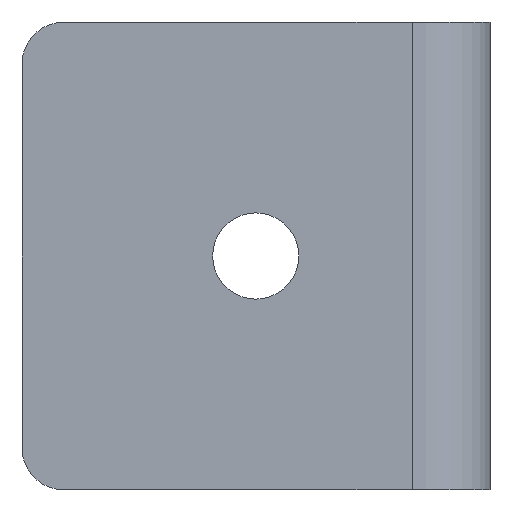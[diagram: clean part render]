
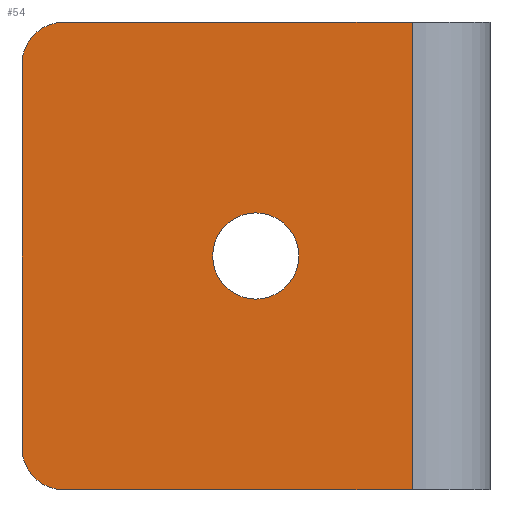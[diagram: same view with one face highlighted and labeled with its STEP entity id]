
A CAD part, left-side view. The second image highlights one B-rep face of the part: STEP entity #54.
In plain terms, the highlighted planar face has unit normal (-1, 0, 0).
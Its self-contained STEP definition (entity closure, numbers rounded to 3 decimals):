
#1 = DIRECTION ( 'NONE',  ( 1., 0., 0. ) ) ;
#29 = VERTEX_POINT ( 'NONE', #255 ) ;
#54 = ADVANCED_FACE ( 'NONE', ( #367, #424 ), #542, .F. ) ;
#56 = VERTEX_POINT ( 'NONE', #602 ) ;
#60 = EDGE_LOOP ( 'NONE', ( #582, #161, #578, #226, #297, #388 ) ) ;
#100 = DIRECTION ( 'NONE',  ( 0., 0., 1. ) ) ;
#120 = VECTOR ( 'NONE', #728, 1000. ) ;
#128 = AXIS2_PLACEMENT_3D ( 'NONE', #428, #486, #251 ) ;
#134 = EDGE_CURVE ( 'NONE', #702, #56, #136, .T. ) ;
#136 = LINE ( 'NONE', #315, #720 ) ;
#158 = DIRECTION ( 'NONE',  ( -1., 0., 0. ) ) ;
#161 = ORIENTED_EDGE ( 'NONE', *, *, #324, .F. ) ;
#212 = DIRECTION ( 'NONE',  ( 0., 0., -1. ) ) ;
#213 = LINE ( 'NONE', #387, #412 ) ;
#223 = EDGE_LOOP ( 'NONE', ( #575, #755 ) ) ;
#226 = ORIENTED_EDGE ( 'NONE', *, *, #243, .T. ) ;
#230 = VERTEX_POINT ( 'NONE', #574 ) ;
#243 = EDGE_CURVE ( 'NONE', #399, #760, #213, .T. ) ;
#246 = VECTOR ( 'NONE', #212, 1000. ) ;
#251 = DIRECTION ( 'NONE',  ( 0., 0., 1. ) ) ;
#255 = CARTESIAN_POINT ( 'NONE',  ( -4.849, 36.049, 22.5 ) ) ;
#276 = EDGE_CURVE ( 'NONE', #323, #473, #333, .T. ) ;
#292 = AXIS2_PLACEMENT_3D ( 'NONE', #372, #1, #675 ) ;
#294 = AXIS2_PLACEMENT_3D ( 'NONE', #421, #526, #417 ) ;
#297 = ORIENTED_EDGE ( 'NONE', *, *, #678, .T. ) ;
#309 = CARTESIAN_POINT ( 'NONE',  ( -4.849, 40.049, 22.5 ) ) ;
#315 = CARTESIAN_POINT ( 'NONE',  ( -4.849, 40.049, -22.5 ) ) ;
#317 = CARTESIAN_POINT ( 'NONE',  ( -4.849, 40.049, 18.5 ) ) ;
#323 = VERTEX_POINT ( 'NONE', #680 ) ;
#324 = EDGE_CURVE ( 'NONE', #29, #230, #436, .T. ) ;
#326 = EDGE_CURVE ( 'NONE', #473, #323, #594, .T. ) ;
#333 = CIRCLE ( 'NONE', #292, 4.15 ) ;
#350 = CIRCLE ( 'NONE', #662, 4. ) ;
#361 = CARTESIAN_POINT ( 'NONE',  ( -4.849, 36.049, 18.5 ) ) ;
#367 = FACE_OUTER_BOUND ( 'NONE', #60, .T. ) ;
#372 = CARTESIAN_POINT ( 'NONE',  ( -4.849, 17.549, 0. ) ) ;
#387 = CARTESIAN_POINT ( 'NONE',  ( -4.849, 40.049, 22.5 ) ) ;
#388 = ORIENTED_EDGE ( 'NONE', *, *, #134, .T. ) ;
#399 = VERTEX_POINT ( 'NONE', #317 ) ;
#412 = VECTOR ( 'NONE', #563, 1000. ) ;
#417 = DIRECTION ( 'NONE',  ( 0., 0., 1. ) ) ;
#421 = CARTESIAN_POINT ( 'NONE',  ( -4.849, 36.049, -18.5 ) ) ;
#424 = FACE_BOUND ( 'NONE', #223, .T. ) ;
#428 = CARTESIAN_POINT ( 'NONE',  ( -4.849, 40.049, 22.5 ) ) ;
#436 = LINE ( 'NONE', #309, #120 ) ;
#438 = DIRECTION ( 'NONE',  ( 0., 0., 1. ) ) ;
#473 = VERTEX_POINT ( 'NONE', #566 ) ;
#486 = DIRECTION ( 'NONE',  ( 1., 0., 0. ) ) ;
#493 = DIRECTION ( 'NONE',  ( 1., 0., 0. ) ) ;
#507 = DIRECTION ( 'NONE',  ( 0., -1., 0. ) ) ;
#512 = LINE ( 'NONE', #753, #246 ) ;
#526 = DIRECTION ( 'NONE',  ( -1., 0., 0. ) ) ;
#539 = CARTESIAN_POINT ( 'NONE',  ( -4.849, 40.049, -18.5 ) ) ;
#542 = PLANE ( 'NONE',  #128 ) ;
#550 = EDGE_CURVE ( 'NONE', #230, #56, #512, .T. ) ;
#563 = DIRECTION ( 'NONE',  ( 0., 0., -1. ) ) ;
#566 = CARTESIAN_POINT ( 'NONE',  ( -4.849, 17.549, 4.15 ) ) ;
#574 = CARTESIAN_POINT ( 'NONE',  ( -4.849, 2.5, 22.5 ) ) ;
#575 = ORIENTED_EDGE ( 'NONE', *, *, #276, .T. ) ;
#578 = ORIENTED_EDGE ( 'NONE', *, *, #674, .T. ) ;
#582 = ORIENTED_EDGE ( 'NONE', *, *, #550, .F. ) ;
#594 = CIRCLE ( 'NONE', #683, 4.15 ) ;
#602 = CARTESIAN_POINT ( 'NONE',  ( -4.849, 2.5, -22.5 ) ) ;
#662 = AXIS2_PLACEMENT_3D ( 'NONE', #361, #158, #100 ) ;
#667 = CARTESIAN_POINT ( 'NONE',  ( -4.849, 17.549, 0. ) ) ;
#674 = EDGE_CURVE ( 'NONE', #29, #399, #350, .T. ) ;
#675 = DIRECTION ( 'NONE',  ( 0., 0., 1. ) ) ;
#678 = EDGE_CURVE ( 'NONE', #760, #702, #722, .T. ) ;
#680 = CARTESIAN_POINT ( 'NONE',  ( -4.849, 17.549, -4.15 ) ) ;
#683 = AXIS2_PLACEMENT_3D ( 'NONE', #667, #493, #438 ) ;
#702 = VERTEX_POINT ( 'NONE', #705 ) ;
#705 = CARTESIAN_POINT ( 'NONE',  ( -4.849, 36.049, -22.5 ) ) ;
#720 = VECTOR ( 'NONE', #507, 1000. ) ;
#722 = CIRCLE ( 'NONE', #294, 4. ) ;
#728 = DIRECTION ( 'NONE',  ( 0., -1., 0. ) ) ;
#753 = CARTESIAN_POINT ( 'NONE',  ( -4.849, 2.5, 22.5 ) ) ;
#755 = ORIENTED_EDGE ( 'NONE', *, *, #326, .T. ) ;
#760 = VERTEX_POINT ( 'NONE', #539 ) ;
